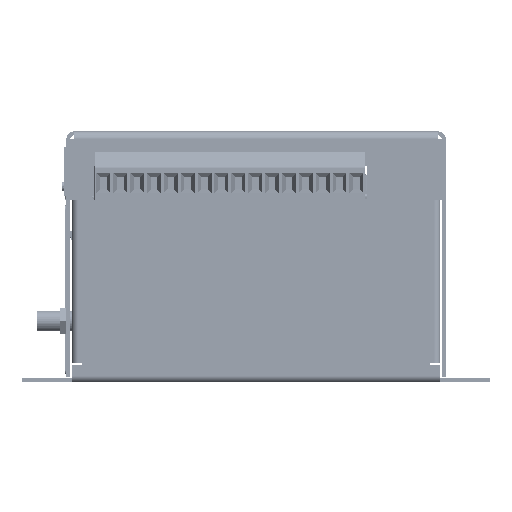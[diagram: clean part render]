
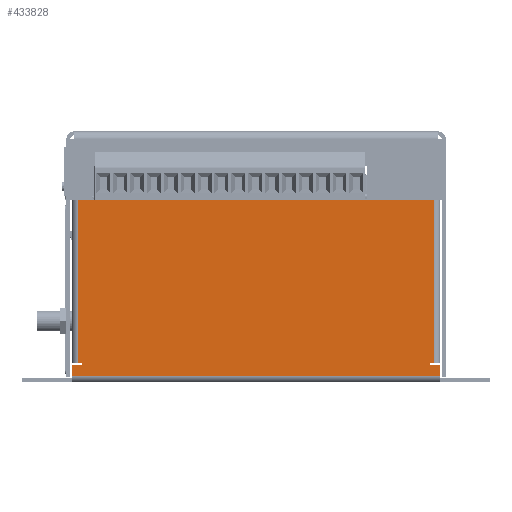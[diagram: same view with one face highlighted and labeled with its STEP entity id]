
A CAD part, left-side view. The second image highlights one B-rep face of the part: STEP entity #433828.
In plain terms, the highlighted planar face has unit normal (-1, 0, 0).
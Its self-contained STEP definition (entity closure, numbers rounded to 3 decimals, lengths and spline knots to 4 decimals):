
#112772=VECTOR('',#479003,1.);
#112775=VECTOR('',#479013,1.);
#112778=VECTOR('',#479017,1.);
#112781=VECTOR('',#479021,1.);
#112783=VECTOR('',#479024,1.);
#112784=VECTOR('',#479025,1.);
#112785=VECTOR('',#479026,1.);
#112786=VECTOR('',#479027,1.);
#112787=VECTOR('',#479028,1.);
#112788=VECTOR('',#479029,1.);
#112789=VECTOR('',#479030,1.);
#112790=VECTOR('',#479031,1.);
#150305=LINE('',#554471,#112772);
#150308=LINE('',#554481,#112775);
#150311=LINE('',#554487,#112778);
#150314=LINE('',#554493,#112781);
#150316=LINE('',#554497,#112783);
#150317=LINE('',#554499,#112784);
#150318=LINE('',#554501,#112785);
#150319=LINE('',#554503,#112786);
#150320=LINE('',#554505,#112787);
#150321=LINE('',#554507,#112788);
#150322=LINE('',#554509,#112789);
#150323=LINE('',#554511,#112790);
#187793=PLANE('',#453084);
#201422=VERTEX_POINT('',#554468);
#201423=VERTEX_POINT('',#554470);
#201427=VERTEX_POINT('',#554482);
#201429=VERTEX_POINT('',#554488);
#201431=VERTEX_POINT('',#554494);
#201432=VERTEX_POINT('',#554498);
#201433=VERTEX_POINT('',#554500);
#201434=VERTEX_POINT('',#554502);
#201435=VERTEX_POINT('',#554504);
#201436=VERTEX_POINT('',#554506);
#201437=VERTEX_POINT('',#554508);
#201438=VERTEX_POINT('',#554510);
#240171=EDGE_CURVE('',#201423,#201422,#150305,.T.);
#240176=EDGE_CURVE('',#201427,#201422,#150308,.T.);
#240179=EDGE_CURVE('',#201429,#201427,#150311,.T.);
#240182=EDGE_CURVE('',#201431,#201429,#150314,.T.);
#240184=EDGE_CURVE('',#201432,#201423,#150316,.T.);
#240185=EDGE_CURVE('',#201433,#201432,#150317,.T.);
#240186=EDGE_CURVE('',#201433,#201434,#150318,.T.);
#240187=EDGE_CURVE('',#201434,#201435,#150319,.T.);
#240188=EDGE_CURVE('',#201435,#201436,#150320,.T.);
#240189=EDGE_CURVE('',#201437,#201436,#150321,.T.);
#240190=EDGE_CURVE('',#201438,#201437,#150322,.T.);
#240191=EDGE_CURVE('',#201431,#201438,#150323,.T.);
#291136=ORIENTED_EDGE('',*,*,#240182,.T.);
#291137=ORIENTED_EDGE('',*,*,#240179,.T.);
#291138=ORIENTED_EDGE('',*,*,#240176,.T.);
#291139=ORIENTED_EDGE('',*,*,#240171,.F.);
#291140=ORIENTED_EDGE('',*,*,#240184,.F.);
#291141=ORIENTED_EDGE('',*,*,#240185,.F.);
#291142=ORIENTED_EDGE('',*,*,#240186,.T.);
#291143=ORIENTED_EDGE('',*,*,#240187,.T.);
#291144=ORIENTED_EDGE('',*,*,#240188,.T.);
#291145=ORIENTED_EDGE('',*,*,#240189,.F.);
#291146=ORIENTED_EDGE('',*,*,#240190,.F.);
#291147=ORIENTED_EDGE('',*,*,#240191,.F.);
#392798=EDGE_LOOP('',(#291136,#291137,#291138,#291139,#291140,#291141,#291142,
#291143,#291144,#291145,#291146,#291147));
#413318=FACE_BOUND('',#392798,.T.);
#433828=ADVANCED_FACE('',(#413318),#187793,.F.);
#453084=AXIS2_PLACEMENT_3D('',#554496,#479023,$);
#479003=DIRECTION('',(0.,0.,-1.));
#479013=DIRECTION('',(0.,-1.,0.));
#479017=DIRECTION('',(0.,0.,1.));
#479021=DIRECTION('',(0.,1.,0.));
#479023=DIRECTION('',(1.,0.,0.));
#479024=DIRECTION('',(0.,-1.,0.));
#479025=DIRECTION('',(0.,0.,1.));
#479026=DIRECTION('',(0.,-1.,0.));
#479027=DIRECTION('',(0.,0.,-1.));
#479028=DIRECTION('',(0.,1.,0.));
#479029=DIRECTION('',(0.,0.,1.));
#479030=DIRECTION('',(0.,1.,0.));
#479031=DIRECTION('',(0.,0.,-1.));
#554468=CARTESIAN_POINT('',(0.,-4.888,0.234));
#554470=CARTESIAN_POINT('',(0.,-4.888,2.1656));
#554471=CARTESIAN_POINT('',(0.,-4.888,1.1503));
#554481=CARTESIAN_POINT('',(0.,-3.8375,0.234));
#554482=CARTESIAN_POINT('',(0.,-4.84,0.234));
#554487=CARTESIAN_POINT('',(0.,-4.84,0.6614));
#554488=CARTESIAN_POINT('',(0.,-4.84,0.21));
#554493=CARTESIAN_POINT('',(0.,-3.8375,0.21));
#554494=CARTESIAN_POINT('',(0.,-4.96,0.21));
#554496=CARTESIAN_POINT('',(0.,-2.775,1.1007));
#554497=CARTESIAN_POINT('',(0.,-4.96,2.1656));
#554498=CARTESIAN_POINT('',(0.,-0.662,2.1656));
#554499=CARTESIAN_POINT('',(0.,-0.662,1.1503));
#554500=CARTESIAN_POINT('',(0.,-0.662,0.234));
#554501=CARTESIAN_POINT('',(0.,-1.7125,0.234));
#554502=CARTESIAN_POINT('',(0.,-0.71,0.234));
#554503=CARTESIAN_POINT('',(0.,-0.71,0.6614));
#554504=CARTESIAN_POINT('',(0.,-0.71,0.21));
#554505=CARTESIAN_POINT('',(0.,-1.7125,0.21));
#554506=CARTESIAN_POINT('',(0.,-0.59,0.21));
#554507=CARTESIAN_POINT('',(0.,-0.59,2.1656));
#554508=CARTESIAN_POINT('',(0.,-0.59,0.072));
#554509=CARTESIAN_POINT('',(0.,-2.775,0.072));
#554510=CARTESIAN_POINT('',(0.,-4.96,0.072));
#554511=CARTESIAN_POINT('',(0.,-4.96,0.0358));
